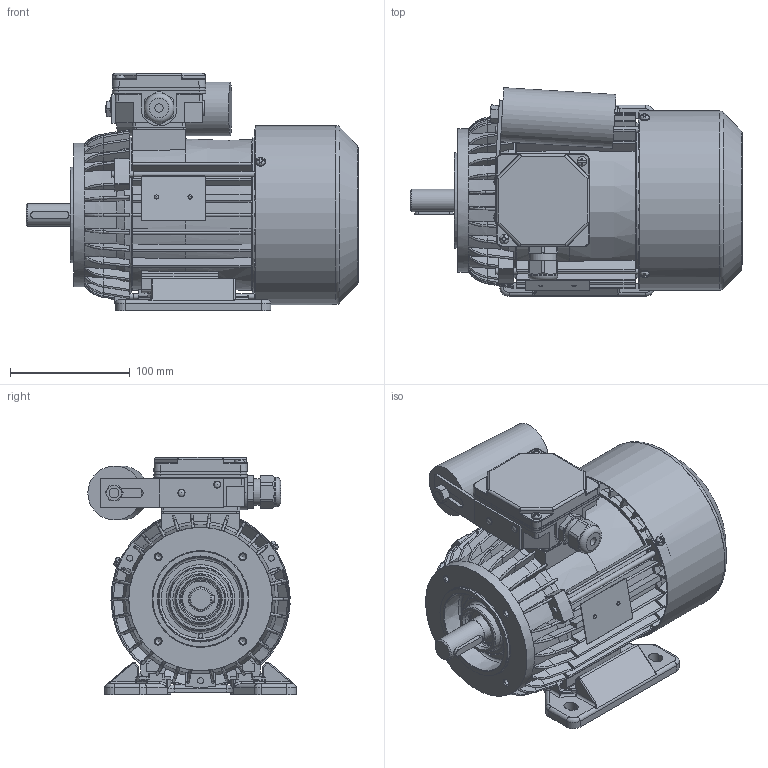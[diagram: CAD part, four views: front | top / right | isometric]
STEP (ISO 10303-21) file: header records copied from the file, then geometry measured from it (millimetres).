
FILE_DESCRIPTION(/* description */ ('Unknown'),/* implementation_level */ '2;1');
FILE_NAME(/* name */ '3SSIEL80-4A2',/* time_stamp */ '2024-06-18T07:25:18+02:00',/* author */ ('Unknown'),/* organization */ ('Unknown'),/* preprocessor_version */ 'ST-DEVELOPER v16.7',/* originating_system */ 'Solid Edge',/* authorisation */ 'Unknown');
FILE_SCHEMA (('AUTOMOTIVE_DESIGN {1 0 10303 214 3 1 1}'));
Products named in the file (1): Czêœæ10
Bounding box: 277.78 x 174.3 x 198.5 mm (x, y, z)
Volume: 1141636.4 mm3; surface area: 557245.5 mm2
Topology: 3 solids, 3 shells, 2901 faces, 8324 edges, 5393 vertices
Faces by surface type: plane 1372, cylinder 883, bspline 256, torus 213, cone 155, sphere 22
Full cylindrical faces by diameter (mm): 2 x2, 2.4 x2, 3 x1, 3.7 x8, 4 x7, 4.3 x2, 4.5 x3, 4.6 x3, 4.8 x2, 5 x12, 5.5 x3, 6 x2, 6.5 x5, 7 x1, 8 x10, 18.998 x1, 19.298 x1, 19.498 x1, 20.298 x2, 20.398 x2, 20.4 x2, 22.3 x1, 25 x1, 25.497 x1, 25.997 x2, 26.097 x1, 26.997 x1, 28.799 x4, 30 x1, 34 x1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
Entity records: 121182 total; most frequent: CARTESIAN_POINT 29573, ORIENTED_EDGE 15808, DIRECTION 14286, EDGE_CURVE 7904, AXIS2_PLACEMENT_3D 5233, VERTEX_POINT 5225, LINE 3820, VECTOR 3820
